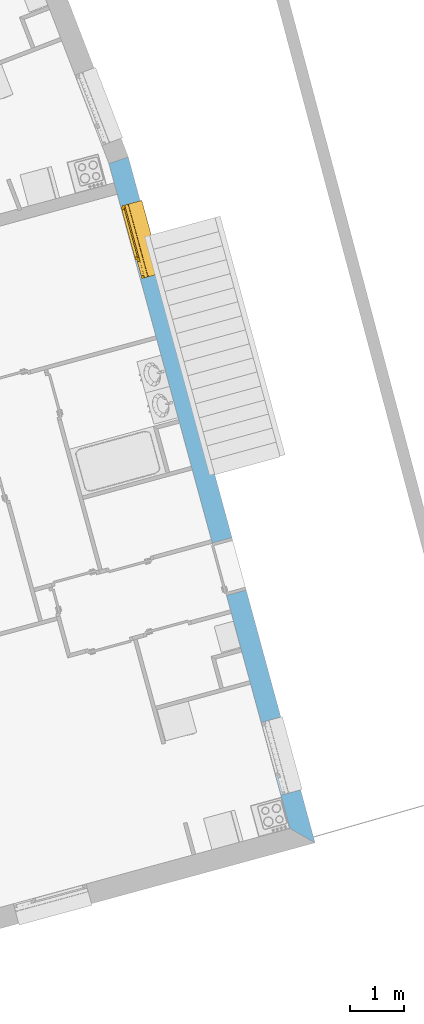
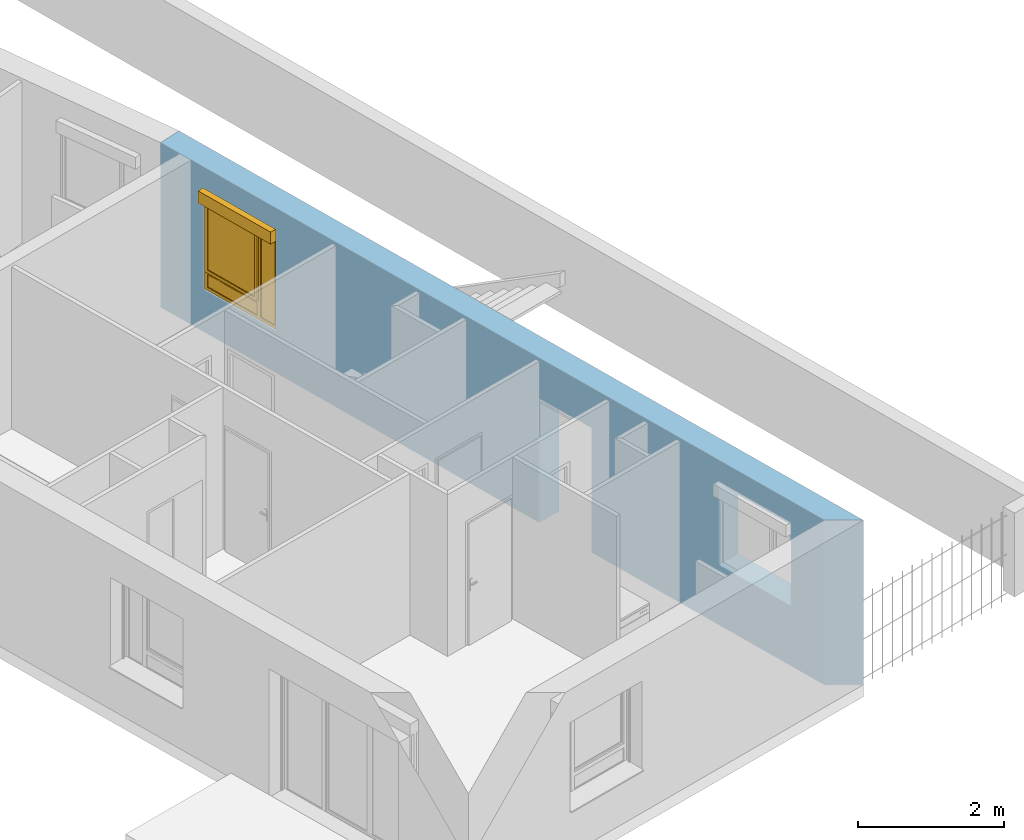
# One storey, part 82 of 195: 1 window, 3 openings, plus 1 element that does not belong to this part.
"""IFC2X3 building model written with IfcOpenShell, lengths in metres."""

from ifc_helpers import new_model, entity, si_unit, converted_unit, derived_unit, money_unit, direction, frame, origin_with_axes, origin_2d_with_axis, place, context, subcontext, project, spatial, polyline, rectangle, outline, extrude, open_shell, faceted_brep, surface_model, source, transform, mapped, material, layer, layer_set, layer_usage, type_object, element, fill, save


model = new_model("IFC2X3")

# Units and contexts
model_context = context("Model", 3, precision=1e-05, world=origin_with_axes(), true_north=direction((0.0, 1.0)))
body_context = subcontext(model_context, "Body", "Model", "MODEL_VIEW")
ifc_project = project(units=[si_unit("LENGTHUNIT", "METRE"), si_unit("AREAUNIT", "SQUARE_METRE"), si_unit("VOLUMEUNIT", "CUBIC_METRE"), converted_unit("PLANEANGLEUNIT", "DEGREE", entity("IfcPlaneAngleMeasure", 0.0174532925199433), si_unit("PLANEANGLEUNIT", "RADIAN"), dimensions=[0, 0, 0, 0, 0, 0, 0]), money_unit("CHF"), converted_unit("TIMEUNIT", "Year", entity("IfcTimeMeasure", 31557600.0), si_unit("TIMEUNIT", "SECOND"), dimensions=[0, 0, 1, 0, 0, 0, 0]), si_unit("MASSUNIT", "GRAM", prefix="KILO"), si_unit("THERMODYNAMICTEMPERATUREUNIT", "DEGREE_CELSIUS"), si_unit("LUMINOUSINTENSITYUNIT", "LUMEN"), si_unit("ENERGYUNIT", "JOULE", prefix="MEGA"), derived_unit("THERMALCONDUCTANCEUNIT", [(si_unit("POWERUNIT", "WATT"), 1), (si_unit("LENGTHUNIT", "METRE"), -1), (si_unit("THERMODYNAMICTEMPERATUREUNIT", "KELVIN"), -1)]), derived_unit("SPECIFICHEATCAPACITYUNIT", [(si_unit("ENERGYUNIT", "JOULE"), 1), (si_unit("MASSUNIT", "GRAM", prefix="KILO"), -1), (si_unit("THERMODYNAMICTEMPERATUREUNIT", "KELVIN"), -1)]), derived_unit("MASSDENSITYUNIT", [(si_unit("MASSUNIT", "GRAM", prefix="KILO"), 1), (si_unit("VOLUMEUNIT", "CUBIC_METRE"), -1)])], contexts=[model_context])

# Site, building, storey
site_placement = place(None, origin_with_axes())
site = spatial("IfcSite", under=ifc_project, at=site_placement, Name="Site", CompositionType="ELEMENT")
building_placement = place(site_placement, origin_with_axes())
building = spatial("IfcBuilding", under=site, at=building_placement, Name="Bâtiment", CompositionType="ELEMENT")
storey_placement = place(building_placement, origin_with_axes())
storey = spatial("IfcBuildingStorey", under=building, at=storey_placement, Name="rdc", CompositionType="ELEMENT", Elevation=0.0)

# Wall, openings, window
ifc_material_1 = material(Name="Parpaing 312445824")
ifc_layer_1 = layer(ifc_material_1, 0.22, ventilated="UNKNOWN")
ifc_material_2 = material(Name="Isolant styromousse 301821074")
ifc_layer_2 = layer(ifc_material_2, 0.16, ventilated="UNKNOWN")
ifc_layer_set = layer_set([ifc_layer_1, ifc_layer_2], Name="isol int 22+16 0836643197")
ifc_layer_usage = layer_usage(ifc_layer_set, "AXIS2", "NEGATIVE", 0.0)
wall_type = type_object("IfcWallType", Name="isol int 22+16 0836643197 380", PredefinedType="NOTDEFINED")
wall_placement = place(storey_placement, frame((9593.67620369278, -1044.690928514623, 57.7), z_axis=(0.0, 0.0, 1.0), x_axis=(0.2627340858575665, -0.9648682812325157, 0.0)))
wall = element("IfcWallStandardCase", 1, at=wall_placement, inside=storey, type_object=wall_type, material=ifc_layer_usage, Name="Mur-113", context=body_context, shape_type="SweptSolid", body=[
    extrude(outline(polyline([(0.01930253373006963, -0.3799999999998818), (12.8068754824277, -0.3799999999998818), (13.18687548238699, 0.0), (0.0, 0.0), (0.01930253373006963, -0.3799999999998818)])), origin_with_axes(), (0.0, 0.0, 1.0), 2.75),
])
opening_1_placement = place(wall_placement, frame((1.540061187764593, 0.0, 0.7000000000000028), z_axis=(0.0, 0.0, 1.0), x_axis=(1.0, 0.0, 0.0)))
opening_1 = element("IfcOpeningElement", 2, at=opening_1_placement, cuts=wall, Name="Fen-045", context=body_context, shape_type="Brep", body=[
    faceted_brep([(-0.7000000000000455, -0.220000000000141, 1.5), (0.6999999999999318, -0.2200000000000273, 1.5), (0.6999999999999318, 3.343922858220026, 1.5), (-0.7000000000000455, 3.343922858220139, 1.5), (-0.7000000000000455, -0.220000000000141, 1.700000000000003), (0.6999999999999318, -0.2200000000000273, 1.700000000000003), (0.6999999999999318, -0.2999999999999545, 1.5), (0.6999999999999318, -0.2999999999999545, 0.0), (0.6999999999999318, 3.343922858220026, 0.0), (-0.7000000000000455, 3.343922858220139, 0.0), (-0.7000000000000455, -0.3000000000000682, 1.5), (-0.7000000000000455, -0.3000000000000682, 0.0), (-0.7000000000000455, -0.4799999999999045, 1.5), (-0.7000000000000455, -0.4799999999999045, 1.700000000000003), (0.6999999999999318, -0.4800000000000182, 1.700000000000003), (0.6999999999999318, -0.4800000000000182, 1.5), (0.6999999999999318, -3.72392285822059, 1.5), (0.6999999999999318, -3.72392285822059, 0.0), (-0.7000000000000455, -3.723922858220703, 0.0), (-0.7000000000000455, -3.723922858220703, 1.5)], [[[0, 1, 2, 3]], [[1, 0, 4, 5]], [[1, 6, 7, 8, 2]], [[2, 8, 9, 3]], [[10, 0, 3, 9, 11]], [[0, 10, 12, 13, 4]], [[14, 5, 4, 13]], [[6, 1, 5, 14, 15]], [[6, 15, 16, 17, 7]], [[7, 11, 9, 8]], [[12, 10, 11, 18, 19]], [[12, 15, 14, 13]], [[15, 12, 19, 16]], [[19, 18, 17, 16]], [[11, 7, 17, 18]]]),
])
opening_2_placement = place(wall_placement, frame((11.46788983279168, 0.0, 1.0), z_axis=(0.0, 0.0, 1.0), x_axis=(1.0, 0.0, 0.0)))
element("IfcOpeningElement", 3, at=opening_2_placement, cuts=wall, Name="Fen-045", context=body_context, shape_type="Brep", body=[
    faceted_brep([(-0.6999999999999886, -0.220000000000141, 1.200000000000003), (0.6999999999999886, -0.220000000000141, 1.200000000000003), (0.6999999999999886, 3.343922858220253, 1.200000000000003), (-0.7000000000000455, 3.343922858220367, 1.200000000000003), (-0.6999999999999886, -0.220000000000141, 1.399999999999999), (0.6999999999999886, -0.220000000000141, 1.399999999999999), (0.6999999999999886, -0.3000000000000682, 1.200000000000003), (0.6999999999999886, -0.3000000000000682, 0.0), (0.6999999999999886, 3.343922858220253, 0.0), (-0.7000000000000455, 3.343922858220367, 0.0), (-0.6999999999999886, -0.3000000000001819, 1.200000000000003), (-0.6999999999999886, -0.3000000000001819, 0.0), (-0.6999999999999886, -0.4800000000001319, 1.200000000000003), (-0.6999999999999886, -0.4800000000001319, 1.399999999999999), (0.6999999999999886, -0.4800000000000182, 1.399999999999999), (0.6999999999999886, -0.4800000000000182, 1.200000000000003), (0.7000000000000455, -3.723922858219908, 1.200000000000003), (0.7000000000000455, -3.723922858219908, 0.0), (-0.6999999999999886, -3.723922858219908, 0.0), (-0.6999999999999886, -3.723922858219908, 1.200000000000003)], [[[0, 1, 2, 3]], [[1, 0, 4, 5]], [[1, 6, 7, 8, 2]], [[2, 8, 9, 3]], [[10, 0, 3, 9, 11]], [[0, 10, 12, 13, 4]], [[14, 5, 4, 13]], [[6, 1, 5, 14, 15]], [[6, 15, 16, 17, 7]], [[7, 11, 9, 8]], [[12, 10, 11, 18, 19]], [[12, 15, 14, 13]], [[15, 12, 19, 16]], [[19, 18, 17, 16]], [[11, 7, 17, 18]]]),
])
opening_3_placement = place(wall_placement, frame((7.820826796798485, 0.0, 0.0), z_axis=(0.0, 0.0, 1.0), x_axis=(1.0, 0.0, 0.0)))
element("IfcOpeningElement", 4, at=opening_3_placement, cuts=wall, Name="Por-290", context=body_context, shape_type="SweptSolid", body=[
    extrude(rectangle(XDim=1.01000001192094, YDim=2.079999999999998, at=origin_2d_with_axis()), frame((-5.960487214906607e-09, 0.3799999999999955, 1.039999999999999), z_axis=(0.0, -1.0, 0.0), x_axis=(-1.0, 0.0, 0.0)), (0.0, 0.0, 1.0), 0.76),
])
window_style = type_object("IfcWindowStyle", Name="Fenêtre variable 27", ConstructionType="NOTDEFINED", OperationType="TRIPLE_PANEL_LEFT", ParameterTakesPrecedence=False, Sizeable=False)
shared_shape = source(origin_with_axes(), body_context, "Body", "SurfaceModel", [
    surface_model("IfcShellBasedSurfaceModel", [(0.7, -0.05100000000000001, 0.05), (-0.7, -0.05100000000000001, 0.05000000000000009), (-0.7, -0.05100000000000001, 0.04000000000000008), (0.7, -0.05100000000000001, 0.04), (-0.7, -0.3799999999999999, 0.02900000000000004), (0.7, -0.3799999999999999, 0.02899999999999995), (-0.7, -0.3799999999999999, 0.00900000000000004), (0.7, -0.3799999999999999, 0.008999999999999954), (-0.7, -0.3699999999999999, 0.01900000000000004), (0.7, -0.3699999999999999, 0.01899999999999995)], [open_shell([[[0, 1, 2, 3]], [[3, 2, 4, 5]], [[5, 4, 6, 7]], [[7, 6, 8, 9]]])]),
    faceted_brep([(0.7, -0.13, 1.7), (0.7, 0.13, 1.7), (0.697, 0.13, 1.7), (0.697, -0.13, 1.7), (0.7, -0.13, 1.5), (0.7, 0.13, 1.5), (0.697, 0.13, 1.5), (0.697, -0.13, 1.5)], [[[0, 1, 2, 3]], [[0, 4, 5, 1]], [[1, 5, 6, 2]], [[3, 2, 6, 7]], [[4, 0, 3, 7]], [[5, 4, 7, 6]]]),
    faceted_brep([(-0.6970000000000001, -0.1299999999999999, 1.7), (-0.6970000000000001, 0.1300000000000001, 1.7), (-0.7000000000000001, 0.1300000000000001, 1.7), (-0.7000000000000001, -0.1299999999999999, 1.7), (-0.6970000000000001, -0.1299999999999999, 1.5), (-0.6970000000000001, 0.1300000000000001, 1.5), (-0.7000000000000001, 0.1300000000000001, 1.5), (-0.7000000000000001, -0.1299999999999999, 1.5)], [[[0, 1, 2, 3]], [[0, 4, 5, 1]], [[1, 5, 6, 2]], [[3, 2, 6, 7]], [[4, 0, 3, 7]], [[5, 4, 7, 6]]]),
    faceted_brep([(0.697, -0.13, 1.5), (0.697, -0.13, 1.7), (-0.697, -0.1299999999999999, 1.7), (-0.697, -0.1299999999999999, 1.5), (0.697, -0.127, 1.5), (0.697, -0.127, 1.697), (0.697, 0.127, 1.697), (0.697, 0.127, 1.503), (0.697, -0.108, 1.503), (0.697, -0.108, 1.5), (0.697, 0.13, 1.5), (0.697, 0.13, 1.7), (-0.697, 0.1300000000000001, 1.7), (-0.697, 0.1300000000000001, 1.5), (-0.697, -0.1079999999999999, 1.5), (-0.697, -0.1079999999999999, 1.503), (-0.697, 0.1270000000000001, 1.503), (-0.697, 0.1270000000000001, 1.697), (-0.697, -0.1269999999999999, 1.697), (-0.697, -0.1269999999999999, 1.5)], [[[0, 1, 2, 3]], [[0, 4, 5, 6, 7, 8, 9, 10, 11, 1]], [[1, 11, 12, 2]], [[3, 2, 12, 13, 14, 15, 16, 17, 18, 19]], [[4, 0, 3, 19]], [[5, 4, 19, 18]], [[6, 5, 18, 17]], [[7, 6, 17, 16]], [[8, 7, 16, 15]], [[9, 8, 15, 14]], [[10, 9, 14, 13]], [[11, 10, 13, 12]]]),
    faceted_brep([(0.694, -0.08075423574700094, 1.585760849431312), (0.694, -0.07705479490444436, 1.571954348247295), (0.694, -0.07101408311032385, 1.559), (0.694, -0.06281564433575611, 1.547291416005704), (0.694, -0.05270858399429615, 1.537184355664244), (0.694, -0.04099999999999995, 1.528985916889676), (0.694, -0.02804565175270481, 1.522945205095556), (0.694, -0.01423915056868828, 1.519245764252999), (0.694, 0.0, 1.518), (0.694, 0.01423915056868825, 1.519245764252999), (0.694, 0.02804565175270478, 1.522945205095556), (0.694, 0.04099999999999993, 1.528985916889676), (0.694, 0.05270858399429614, 1.537184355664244), (0.694, 0.06281564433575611, 1.547291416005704), (0.694, 0.07101408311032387, 1.559), (0.694, 0.07705479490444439, 1.571954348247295), (0.694, 0.08075423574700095, 1.585760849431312), (0.694, 0.0819999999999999, 1.6), (0.694, 0.08075423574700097, 1.614239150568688), (0.694, 0.0770547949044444, 1.628045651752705), (0.694, 0.07101408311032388, 1.641), (0.694, 0.06281564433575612, 1.652708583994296), (0.694, 0.05270858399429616, 1.662815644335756), (0.694, 0.04099999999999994, 1.671014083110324), (0.694, 0.02804565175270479, 1.677054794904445), (0.694, 0.01423915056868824, 1.680754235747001), (0.694, 0.0, 1.682), (0.694, -0.01423915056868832, 1.680754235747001), (0.694, -0.02804565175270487, 1.677054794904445), (0.694, -0.04100000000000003, 1.671014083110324), (0.694, -0.05270858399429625, 1.662815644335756), (0.694, -0.06281564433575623, 1.652708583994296), (0.694, -0.07101408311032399, 1.641), (0.694, -0.07705479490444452, 1.628045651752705), (0.694, -0.0807542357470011, 1.614239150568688), (0.694, -0.08200000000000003, 1.6), (-0.694, -0.08075423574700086, 1.585760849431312), (-0.694, -0.07705479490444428, 1.571954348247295), (-0.694, -0.07101408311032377, 1.559), (-0.694, -0.06281564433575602, 1.547291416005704), (-0.694, -0.05270858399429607, 1.537184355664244), (-0.694, -0.04099999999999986, 1.528985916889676), (-0.694, -0.02804565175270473, 1.522945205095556), (-0.694, -0.0142391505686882, 1.519245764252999), (-0.694, 0.0, 1.518), (-0.694, 0.01423915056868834, 1.519245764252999), (-0.694, 0.02804565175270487, 1.522945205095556), (-0.694, 0.04100000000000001, 1.528985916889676), (-0.694, 0.05270858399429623, 1.537184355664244), (-0.694, 0.06281564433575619, 1.547291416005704), (-0.694, 0.07101408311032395, 1.559), (-0.694, 0.07705479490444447, 1.571954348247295), (-0.694, 0.08075423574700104, 1.585760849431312), (-0.694, 0.08199999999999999, 1.6), (-0.694, 0.08075423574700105, 1.614239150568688), (-0.694, 0.07705479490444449, 1.628045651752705), (-0.694, 0.07101408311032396, 1.641), (-0.694, 0.0628156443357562, 1.652708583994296), (-0.694, 0.05270858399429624, 1.662815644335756), (-0.694, 0.04100000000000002, 1.671014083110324), (-0.694, 0.02804565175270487, 1.677054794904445), (-0.694, 0.01423915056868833, 1.680754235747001), (-0.694, 0.0, 1.682), (-0.694, -0.01423915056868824, 1.680754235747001), (-0.694, -0.02804565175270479, 1.677054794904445), (-0.694, -0.04099999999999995, 1.671014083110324), (-0.694, -0.05270858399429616, 1.662815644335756), (-0.694, -0.06281564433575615, 1.652708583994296), (-0.694, -0.07101408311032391, 1.641), (-0.694, -0.07705479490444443, 1.628045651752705), (-0.694, -0.08075423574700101, 1.614239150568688), (-0.694, -0.08199999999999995, 1.6)], [[[0, 1, 2, 3, 4, 5, 6, 7, 8, 9, 10, 11, 12, 13, 14, 15, 16, 17, 18, 19, 20, 21, 22, 23, 24, 25, 26, 27, 28, 29, 30, 31, 32, 33, 34, 35]], [[1, 0, 36, 37]], [[2, 1, 37, 38]], [[3, 2, 38, 39]], [[4, 3, 39, 40]], [[5, 4, 40, 41]], [[6, 5, 41, 42]], [[7, 6, 42, 43]], [[8, 7, 43, 44]], [[9, 8, 44, 45]], [[10, 9, 45, 46]], [[11, 10, 46, 47]], [[12, 11, 47, 48]], [[13, 12, 48, 49]], [[14, 13, 49, 50]], [[15, 14, 50, 51]], [[16, 15, 51, 52]], [[17, 16, 52, 53]], [[18, 17, 53, 54]], [[19, 18, 54, 55]], [[20, 19, 55, 56]], [[21, 20, 56, 57]], [[22, 21, 57, 58]], [[23, 22, 58, 59]], [[24, 23, 59, 60]], [[25, 24, 60, 61]], [[26, 25, 61, 62]], [[27, 26, 62, 63]], [[28, 27, 63, 64]], [[29, 28, 64, 65]], [[30, 29, 65, 66]], [[31, 30, 66, 67]], [[32, 31, 67, 68]], [[33, 32, 68, 69]], [[34, 33, 69, 70]], [[35, 34, 70, 71]], [[0, 35, 71, 36]], [[36, 71, 70, 69, 68, 67, 66, 65, 64, 63, 62, 61, 60, 59, 58, 57, 56, 55, 54, 53, 52, 51, 50, 49, 48, 47, 46, 45, 44, 43, 42, 41, 40, 39, 38, 37]]]),
    faceted_brep([(-0.7, -0.105, 0.03), (-0.7, -0.13, 0.03), (-0.7, -0.1299999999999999, 1.5), (-0.7, -0.1049999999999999, 1.5), (-0.6749999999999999, -0.105, 0.03), (-0.6749999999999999, -0.108, 0.03), (-0.697, -0.108, 0.03), (-0.697, -0.127, 0.03), (-0.6749999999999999, -0.127, 0.03), (-0.6749999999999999, -0.13, 0.03), (-0.6749999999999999, -0.1299999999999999, 1.5), (-0.6749999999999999, -0.1269999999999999, 1.5), (-0.697, -0.1269999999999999, 1.5), (-0.697, -0.1079999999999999, 1.5), (-0.6749999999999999, -0.1079999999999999, 1.5), (-0.6749999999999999, -0.1049999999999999, 1.5)], [[[0, 1, 2, 3]], [[0, 4, 5, 6, 7, 8, 9, 1]], [[1, 9, 10, 2]], [[3, 2, 10, 11, 12, 13, 14, 15]], [[4, 0, 3, 15]], [[5, 4, 15, 14]], [[6, 5, 14, 13]], [[7, 6, 13, 12]], [[8, 7, 12, 11]], [[9, 8, 11, 10]]]),
    faceted_brep([(0.7, -0.105, 0.03), (0.7, -0.1049999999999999, 1.5), (0.7, -0.1299999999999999, 1.5), (0.7, -0.13, 0.03), (0.6749999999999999, -0.105, 0.03), (0.6749999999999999, -0.1049999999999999, 1.5), (0.6749999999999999, -0.1079999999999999, 1.5), (0.697, -0.1079999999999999, 1.5), (0.697, -0.1269999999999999, 1.5), (0.6749999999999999, -0.1269999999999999, 1.5), (0.6749999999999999, -0.1299999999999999, 1.5), (0.6749999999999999, -0.13, 0.03), (0.6749999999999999, -0.127, 0.03), (0.697, -0.127, 0.03), (0.697, -0.108, 0.03), (0.6749999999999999, -0.108, 0.03)], [[[0, 1, 2, 3]], [[4, 5, 1, 0]], [[1, 5, 6, 7, 8, 9, 10, 2]], [[3, 2, 10, 11]], [[0, 3, 11, 12, 13, 14, 15, 4]], [[15, 6, 5, 4]], [[14, 7, 6, 15]], [[13, 8, 7, 14]], [[12, 9, 8, 13]], [[11, 10, 9, 12]]]),
    surface_model("IfcShellBasedSurfaceModel", [(0.697, -0.115, 1.6), (-0.697, -0.1149999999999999, 1.6), (-0.697, -0.12, 1.6), (0.697, -0.12, 1.6), (0.697, -0.115, 1.6), (0.697, -0.12, 1.6), (-0.697, -0.1199999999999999, 1.6), (-0.697, -0.1149999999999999, 1.6)], [open_shell([[[0, 1, 2, 3]], [[4, 5, 6, 7]]])]),
    faceted_brep([(0.697, -0.115, 1.6), (0.697, -0.1166666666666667, 1.583333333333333), (-0.697, -0.1166666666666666, 1.583333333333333), (-0.697, -0.1149999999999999, 1.6), (0.697, -0.12, 1.6), (0.697, -0.1216666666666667, 1.583333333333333), (0.697, -0.1216666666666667, 1.566666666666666), (0.697, -0.12, 1.55), (0.697, -0.115, 1.55), (0.697, -0.1166666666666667, 1.566666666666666), (-0.697, -0.1166666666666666, 1.566666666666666), (-0.697, -0.1149999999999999, 1.55), (-0.697, -0.1199999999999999, 1.55), (-0.697, -0.1216666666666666, 1.566666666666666), (-0.697, -0.1216666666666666, 1.583333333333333), (-0.697, -0.1199999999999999, 1.6)], [[[0, 1, 2, 3]], [[0, 4, 5, 6, 7, 8, 9, 1]], [[1, 9, 10, 2]], [[3, 2, 10, 11, 12, 13, 14, 15]], [[4, 0, 3, 15]], [[5, 4, 15, 14]], [[6, 5, 14, 13]], [[7, 6, 13, 12]], [[8, 7, 12, 11]], [[9, 8, 11, 10]]]),
    faceted_brep([(0.697, -0.115, 1.55), (0.697, -0.1166666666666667, 1.533333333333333), (-0.697, -0.1166666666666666, 1.533333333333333), (-0.697, -0.1149999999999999, 1.55), (0.697, -0.12, 1.55), (0.697, -0.1216666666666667, 1.533333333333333), (0.697, -0.1216666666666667, 1.516666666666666), (0.697, -0.12, 1.5), (0.697, -0.115, 1.5), (0.697, -0.1166666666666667, 1.516666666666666), (-0.697, -0.1166666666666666, 1.516666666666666), (-0.697, -0.1149999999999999, 1.5), (-0.697, -0.1199999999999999, 1.5), (-0.697, -0.1216666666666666, 1.516666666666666), (-0.697, -0.1216666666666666, 1.533333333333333), (-0.697, -0.1199999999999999, 1.55)], [[[0, 1, 2, 3]], [[0, 4, 5, 6, 7, 8, 9, 1]], [[1, 9, 10, 2]], [[3, 2, 10, 11, 12, 13, 14, 15]], [[4, 0, 3, 15]], [[5, 4, 15, 14]], [[6, 5, 14, 13]], [[7, 6, 13, 12]], [[8, 7, 12, 11]], [[9, 8, 11, 10]]]),
    faceted_brep([(0.6749999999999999, 0.0, 1.45), (0.6749999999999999, -0.02500000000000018, 1.45), (0.6499999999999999, -0.02500000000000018, 1.45), (0.6499999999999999, -0.05000000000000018, 1.45), (0.7, -0.05000000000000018, 1.45), (0.7, 0.0, 1.45), (0.6749999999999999, 0.0, 0.3099999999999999), (0.6749999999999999, -0.02500000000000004, 0.3099999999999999), (0.6499999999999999, -0.02500000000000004, 0.335), (0.6499999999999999, -0.02500000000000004, 0.3099999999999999), (0.6499999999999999, -0.05000000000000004, 0.335), (0.6499999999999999, -0.05000000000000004, 0.265), (0.6499999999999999, -0.05000000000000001, 0.05000000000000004), (0.7, -0.05000000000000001, 0.05000000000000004), (0.7, 0.0, 0.05000000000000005), (0.6499999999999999, 0.0, 0.05000000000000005), (0.6499999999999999, 0.0, 0.265), (0.6499999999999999, 0.0, 0.3099999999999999)], [[[0, 1, 2, 3, 4, 5]], [[1, 0, 6, 7]], [[8, 2, 1, 7, 9]], [[2, 8, 10, 3]], [[10, 11, 12, 13, 4, 3]], [[5, 4, 13, 14]], [[6, 0, 5, 14, 15, 16, 17]], [[6, 17, 9, 7]], [[9, 17, 16, 11, 10, 8]], [[15, 12, 11, 16]], [[14, 13, 12, 15]]]),
    faceted_brep([(-0.3068894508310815, -0.02500000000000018, 1.45), (-0.3318894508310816, -0.02500000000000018, 1.45), (-0.3318894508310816, 0.0, 1.45), (-0.3768894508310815, 0.0, 1.45), (-0.3768894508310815, -0.05000000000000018, 1.45), (-0.3068894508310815, -0.05000000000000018, 1.45), (-0.3068894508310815, -0.02500000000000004, 0.335), (-0.3068894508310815, -0.02500000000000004, 0.3099999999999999), (-0.3318894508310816, -0.02500000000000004, 0.3099999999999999), (-0.3318894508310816, 0.0, 0.3099999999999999), (-0.3068894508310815, 0.0, 0.3099999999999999), (-0.3068894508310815, 0.0, 0.265), (-0.3068894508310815, 0.0, 0.05000000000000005), (-0.3768894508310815, 0.0, 0.05000000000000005), (-0.3768894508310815, -0.05000000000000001, 0.05000000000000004), (-0.3068894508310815, -0.05000000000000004, 0.265), (-0.3068894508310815, -0.05000000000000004, 0.335), (-0.3068894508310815, -0.05000000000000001, 0.05000000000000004)], [[[0, 1, 2, 3, 4, 5]], [[1, 0, 6, 7, 8]], [[9, 2, 1, 8]], [[9, 10, 11, 12, 13, 3, 2]], [[13, 14, 4, 3]], [[15, 16, 5, 4, 14, 17]], [[6, 0, 5, 16]], [[7, 6, 16, 15, 11, 10]], [[10, 9, 8, 7]], [[11, 15, 17, 12]], [[12, 17, 14, 13]]]),
    faceted_brep([(0.6499999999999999, -0.02500000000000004, 0.335), (-0.3068894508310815, -0.02500000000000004, 0.335), (-0.3068894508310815, -0.05000000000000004, 0.335), (0.6499999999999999, -0.05000000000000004, 0.335), (-0.3068894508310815, -0.02500000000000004, 0.3099999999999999), (0.6499999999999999, -0.02500000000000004, 0.3099999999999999), (-0.3068894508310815, 0.0, 0.3099999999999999), (-0.3068894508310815, 0.0, 0.265), (-0.3068894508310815, -0.05000000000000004, 0.265), (0.6499999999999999, -0.05000000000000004, 0.265), (0.6499999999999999, 0.0, 0.265), (0.6499999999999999, 0.0, 0.3099999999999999)], [[[0, 1, 2, 3]], [[4, 1, 0, 5]], [[4, 6, 7, 8, 2, 1]], [[2, 8, 9, 3]], [[5, 0, 3, 9, 10, 11]], [[11, 6, 4, 5]], [[6, 11, 10, 7]], [[10, 9, 8, 7]]]),
    faceted_brep([(0.6749999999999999, 0.0, 1.45), (0.6749999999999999, 0.0, 1.475), (-0.3318894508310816, 0.0, 1.475), (-0.3318894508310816, 0.0, 1.45), (-0.3768894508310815, 0.0, 1.45), (-0.6499999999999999, 0.0, 1.45), (-0.7, 0.0, 1.45), (-0.7, 0.0, 1.5), (0.7, 0.0, 1.5), (0.7, 0.0, 1.45), (0.6749999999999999, -0.02500000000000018, 1.45), (0.6749999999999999, -0.02500000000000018, 1.475), (-0.3318894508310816, -0.02500000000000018, 1.475), (-0.3318894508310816, -0.02500000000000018, 1.45), (-0.3068894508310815, -0.02500000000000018, 1.45), (-0.3068894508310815, -0.05000000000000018, 1.45), (-0.3768894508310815, -0.05000000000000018, 1.45), (-0.6499999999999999, -0.05000000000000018, 1.45), (-0.7, -0.05000000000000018, 1.45), (-0.7, -0.05000000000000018, 1.5), (0.7, -0.05000000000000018, 1.5), (0.7, -0.05000000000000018, 1.45), (0.6499999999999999, -0.05000000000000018, 1.45), (0.6499999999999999, -0.02500000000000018, 1.45)], [[[0, 1, 2, 3, 4, 5, 6, 7, 8, 9]], [[1, 0, 10, 11]], [[2, 1, 11, 12]], [[3, 2, 12, 13]], [[13, 14, 15, 16, 4, 3]], [[4, 16, 17, 5]], [[5, 17, 18, 6]], [[6, 18, 19, 7]], [[7, 19, 20, 8]], [[8, 20, 21, 9]], [[10, 0, 9, 21, 22, 23]], [[14, 13, 12, 11, 10, 23]], [[14, 23, 22, 15]], [[16, 15, 22, 21, 20, 19, 18, 17]]]),
    faceted_brep([(-0.6499999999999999, -0.05000000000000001, 0.05), (-0.7, -0.05000000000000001, 0.05), (-0.7, 0.0, 0.05000000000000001), (-0.6499999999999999, 0.0, 0.05000000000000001), (-0.6499999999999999, -0.05000000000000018, 1.45), (-0.7, -0.05000000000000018, 1.45), (-0.7, 0.0, 1.45), (-0.6499999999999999, 0.0, 1.45)], [[[0, 1, 2, 3]], [[0, 4, 5, 1]], [[1, 5, 6, 2]], [[3, 2, 6, 7]], [[4, 0, 3, 7]], [[5, 4, 7, 6]]]),
    faceted_brep([(0.6499999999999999, -0.05000000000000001, 0.05), (0.7, -0.05000000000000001, 0.05), (0.7, 0.0, 0.05000000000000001), (0.6499999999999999, 0.0, 0.05000000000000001), (-0.3068894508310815, -0.05000000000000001, 0.05), (-0.3768894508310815, -0.05000000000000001, 0.05), (-0.6499999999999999, -0.05000000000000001, 0.05), (-0.7, -0.05000000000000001, 0.05), (-0.7, -0.05, 0.0), (0.7, -0.05, 0.0), (0.7, 0.0, 0.0), (-0.7, 0.0, 0.0), (-0.7, 0.0, 0.05000000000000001), (-0.6499999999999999, 0.0, 0.05000000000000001), (-0.3768894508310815, 0.0, 0.05000000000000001), (-0.3068894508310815, 0.0, 0.05000000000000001)], [[[0, 1, 2, 3]], [[0, 4, 5, 6, 7, 8, 9, 1]], [[1, 9, 10, 2]], [[3, 2, 10, 11, 12, 13, 14, 15]], [[4, 0, 3, 15]], [[5, 4, 15, 14]], [[6, 5, 14, 13]], [[7, 6, 13, 12]], [[8, 7, 12, 11]], [[9, 8, 11, 10]]]),
    faceted_brep([(0.625, -0.02500000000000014, 1.425), (0.6749999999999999, -0.02500000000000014, 1.425), (0.6749999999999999, 0.02499999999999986, 1.425), (0.625, 0.02499999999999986, 1.425), (0.625, -0.02500000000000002, 0.3599999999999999), (0.6749999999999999, -0.02500000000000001, 0.3599999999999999), (0.6749999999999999, 0.02499999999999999, 0.3599999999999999), (0.625, 0.02499999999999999, 0.3599999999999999)], [[[0, 1, 2, 3]], [[0, 4, 5, 1]], [[1, 5, 6, 2]], [[3, 2, 6, 7]], [[4, 0, 3, 7]], [[5, 4, 7, 6]]]),
    faceted_brep([(-0.2818894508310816, -0.02500000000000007, 0.3599999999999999), (-0.3318894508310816, -0.02500000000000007, 0.3599999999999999), (-0.3318894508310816, 0.02499999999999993, 0.3599999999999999), (-0.2818894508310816, 0.02499999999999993, 0.3599999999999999), (-0.2818894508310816, -0.0250000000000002, 1.425), (-0.3318894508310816, -0.0250000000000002, 1.425), (-0.3318894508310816, 0.0249999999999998, 1.425), (-0.2818894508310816, 0.0249999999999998, 1.425)], [[[0, 1, 2, 3]], [[0, 4, 5, 1]], [[1, 5, 6, 2]], [[3, 2, 6, 7]], [[4, 0, 3, 7]], [[5, 4, 7, 6]]]),
    faceted_brep([(-0.3318894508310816, -0.02500000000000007, 0.3099999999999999), (-0.3318894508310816, -0.02500000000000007, 0.3599999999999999), (-0.3318894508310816, 0.02499999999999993, 0.3599999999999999), (-0.3318894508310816, 0.02499999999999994, 0.3099999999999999), (0.6749999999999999, -0.025, 0.3099999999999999), (0.6749999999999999, -0.02500000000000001, 0.3599999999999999), (0.625, -0.02500000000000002, 0.3599999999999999), (-0.2818894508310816, -0.02500000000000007, 0.3599999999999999), (-0.2818894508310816, 0.02499999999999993, 0.3599999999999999), (0.625, 0.02499999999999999, 0.3599999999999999), (0.6749999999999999, 0.02499999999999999, 0.3599999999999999), (0.6749999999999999, 0.02499999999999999, 0.3099999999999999)], [[[0, 1, 2, 3]], [[0, 4, 5, 6, 7, 1]], [[1, 7, 8, 2]], [[3, 2, 8, 9, 10, 11]], [[4, 0, 3, 11]], [[5, 4, 11, 10]], [[6, 5, 10, 9]], [[7, 6, 9, 8]]]),
    faceted_brep([(0.6749999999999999, -0.02500000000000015, 1.475), (0.6749999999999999, -0.02500000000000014, 1.425), (0.6749999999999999, 0.02499999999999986, 1.425), (0.6749999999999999, 0.02499999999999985, 1.475), (-0.3318894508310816, -0.02500000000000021, 1.475), (-0.3318894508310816, -0.0250000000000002, 1.425), (-0.2818894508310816, -0.0250000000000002, 1.425), (0.625, -0.02500000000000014, 1.425), (0.625, 0.02499999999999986, 1.425), (-0.2818894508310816, 0.0249999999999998, 1.425), (-0.3318894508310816, 0.0249999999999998, 1.425), (-0.3318894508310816, 0.02499999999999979, 1.475)], [[[0, 1, 2, 3]], [[0, 4, 5, 6, 7, 1]], [[1, 7, 8, 2]], [[3, 2, 8, 9, 10, 11]], [[4, 0, 3, 11]], [[5, 4, 11, 10]], [[6, 5, 10, 9]], [[7, 6, 9, 8]]]),
    surface_model("IfcShellBasedSurfaceModel", [(0.625, -0.01000000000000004, 0.3599999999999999), (0.625, -0.01000000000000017, 1.425), (-0.2818894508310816, -0.01000000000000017, 1.425), (-0.2818894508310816, -0.01000000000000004, 0.3599999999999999)], [open_shell([[[0, 1, 2, 3]]])]),
    surface_model("IfcShellBasedSurfaceModel", [(0.625, 0.009999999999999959, 0.3599999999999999), (-0.2818894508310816, 0.009999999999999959, 0.3599999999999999), (-0.2818894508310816, 0.00999999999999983, 1.425), (0.625, 0.00999999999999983, 1.425)], [open_shell([[[0, 1, 2, 3]]])]),
    surface_model("IfcShellBasedSurfaceModel", [(-0.3768894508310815, -0.035, 0.05), (-0.3768894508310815, -0.03500000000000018, 1.45), (-0.65, -0.03500000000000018, 1.45), (-0.65, -0.035, 0.05)], [open_shell([[[0, 1, 2, 3]]])]),
    surface_model("IfcShellBasedSurfaceModel", [(-0.3768894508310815, -0.015, 0.05), (-0.65, -0.015, 0.05), (-0.65, -0.01500000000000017, 1.45), (-0.3768894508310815, -0.01500000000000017, 1.45)], [open_shell([[[0, 1, 2, 3]]])]),
    surface_model("IfcShellBasedSurfaceModel", [(0.6499999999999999, -0.035, 0.05), (0.6499999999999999, -0.03500000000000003, 0.265), (-0.3068894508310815, -0.03500000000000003, 0.265), (-0.3068894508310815, -0.035, 0.05)], [open_shell([[[0, 1, 2, 3]]])]),
    surface_model("IfcShellBasedSurfaceModel", [(0.6499999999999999, -0.015, 0.05), (-0.3068894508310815, -0.015, 0.05), (-0.3068894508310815, -0.01500000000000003, 0.265), (0.6499999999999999, -0.01500000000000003, 0.265)], [open_shell([[[0, 1, 2, 3]]])]),
])
window_placement = place(opening_1_placement, frame((0.7000000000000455, 0.0, 0.0), z_axis=(0.0, 0.0, 1.0), x_axis=(-1.0, 0.0, 0.0)))
window = element("IfcWindow", 5, at=window_placement, inside=storey, type_object=window_style, Name="Fen-045", OverallHeight=1.5, OverallWidth=1.4, context=body_context, shape_type="MappedRepresentation", body=[
    mapped(shared_shape, transform((0.6999999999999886, 0.3500000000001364, 0.0))),
])
fill(opening_1, window)

save(model, "model.ifc")
